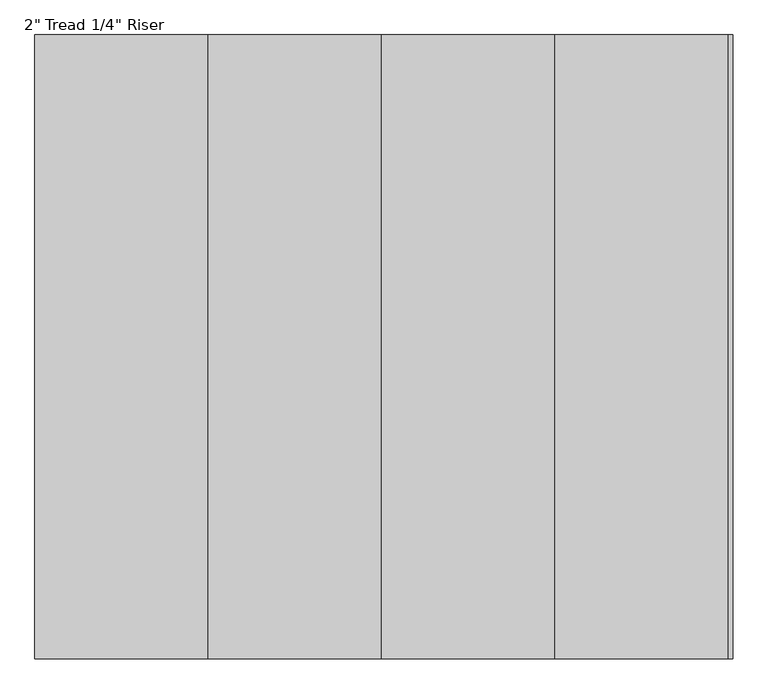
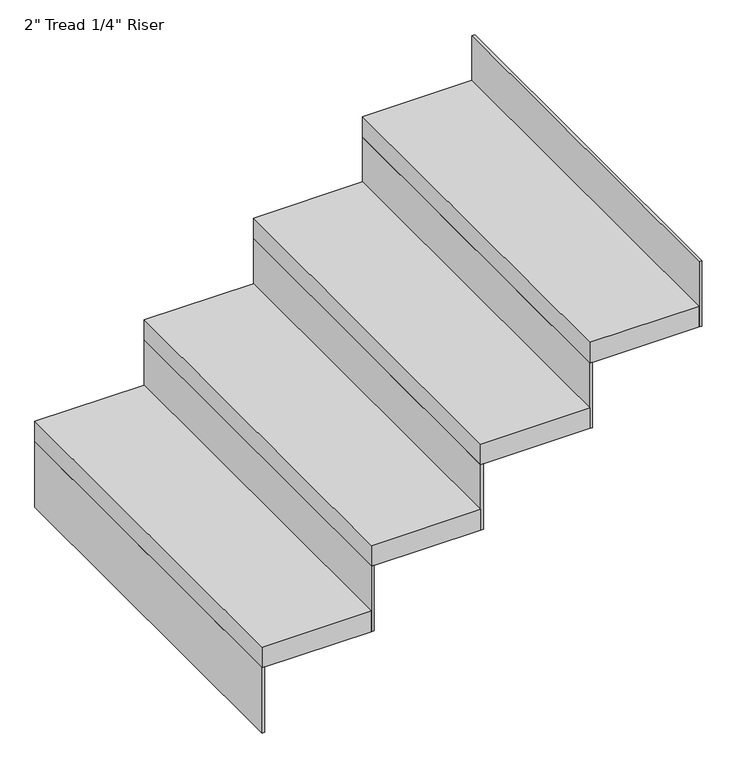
"""IFC4 building model written with IfcOpenShell, lengths in millimetres: stair flight geometry."""

from ifc_helpers import new_model, si_unit, frame, origin, place, context, project, spatial, polyline, outline, extrude, source, transform, mapped, element, save


def stair_flight_938dff1c(model_context):
    return source(origin(), model_context, "Body", "SweptSolid", [
        extrude(outline(polyline([(139886.5788146, -35593.481782), (139880.2288146, -35593.481782), (139880.2288146, -34679.081782), (139886.5788146, -34679.081782), (139886.5788146, -35593.481782)])), frame((0.0, 0.0, 2195.0947368), z_axis=(0.0, 0.0, 1.0), x_axis=(1.0, 0.0, 0.0)), (0.0, 0.0, 1.0), 160.4210526),
        extrude(outline(polyline([(140134.2288146, -34679.081782), (140134.2288146, -35593.481782), (139880.2288146, -35593.481782), (139880.2288146, -34679.081782), (140134.2288146, -34679.081782)])), frame((0.0, 0.0, 2355.5157895), z_axis=(0.0, 0.0, 1.0), x_axis=(1.0, 0.0, 0.0)), (0.0, 0.0, 1.0), 50.8),
        extrude(outline(polyline([(140140.5788146, -35593.481782), (140134.2288146, -35593.481782), (140134.2288146, -34679.081782), (140140.5788146, -34679.081782), (140140.5788146, -35593.481782)])), frame((0.0, 0.0, 2355.5157895), z_axis=(0.0, 0.0, 1.0), x_axis=(1.0, 0.0, 0.0)), (0.0, 0.0, 1.0), 160.4210526),
        extrude(outline(polyline([(140388.2288146, -34679.081782), (140388.2288146, -35593.481782), (140134.2288146, -35593.481782), (140134.2288146, -34679.081782), (140388.2288146, -34679.081782)])), frame((0.0, 0.0, 2515.9368421), z_axis=(0.0, 0.0, 1.0), x_axis=(1.0, 0.0, 0.0)), (0.0, 0.0, 1.0), 50.8),
        extrude(outline(polyline([(140394.5788146, -35593.481782), (140388.2288146, -35593.481782), (140388.2288146, -34679.081782), (140394.5788146, -34679.081782), (140394.5788146, -35593.481782)])), frame((0.0, 0.0, 2515.9368421), z_axis=(0.0, 0.0, 1.0), x_axis=(1.0, 0.0, 0.0)), (0.0, 0.0, 1.0), 160.4210526),
        extrude(outline(polyline([(140642.2288146, -34679.081782), (140642.2288146, -35593.481782), (140388.2288146, -35593.481782), (140388.2288146, -34679.081782), (140642.2288146, -34679.081782)])), frame((0.0, 0.0, 2676.3578947), z_axis=(0.0, 0.0, 1.0), x_axis=(1.0, 0.0, 0.0)), (0.0, 0.0, 1.0), 50.8),
        extrude(outline(polyline([(140648.5788146, -35593.481782), (140642.2288146, -35593.481782), (140642.2288146, -34679.081782), (140648.5788146, -34679.081782), (140648.5788146, -35593.481782)])), frame((0.0, 0.0, 2676.3578947), z_axis=(0.0, 0.0, 1.0), x_axis=(1.0, 0.0, 0.0)), (0.0, 0.0, 1.0), 160.4210526),
        extrude(outline(polyline([(140902.5788146, -35593.481782), (140896.2288146, -35593.481782), (140896.2288146, -34679.081782), (140902.5788146, -34679.081782), (140902.5788146, -35593.481782)])), frame((0.0, 0.0, 2836.7789474), z_axis=(0.0, 0.0, 1.0), x_axis=(1.0, 0.0, 0.0)), (0.0, 0.0, 1.0), 160.4210526),
        extrude(outline(polyline([(140896.2288146, -34679.081782), (140896.2288146, -35593.481782), (140642.2288146, -35593.481782), (140642.2288146, -34679.081782), (140896.2288146, -34679.081782)])), frame((0.0, 0.0, 2836.7789474), z_axis=(0.0, 0.0, 1.0), x_axis=(1.0, 0.0, 0.0)), (0.0, 0.0, 1.0), 50.8),
    ])


if __name__ == "__main__":
    model = new_model("IFC4")
    model_context = context("Model", 3, world=origin())
    ifc_project = project(units=[si_unit("LENGTHUNIT", "METRE", prefix="MILLI")], contexts=[model_context])
    site = spatial("IfcSite", under=ifc_project)
    building = spatial("IfcBuilding", under=site)
    placement = place(None, origin())
    stair_flight_shape = stair_flight_938dff1c(model_context)
    element("IfcStairFlight", 1, ObjectType="2\" Tread 1/4\" Riser", at=placement, inside=building, context=model_context, shape_type="MappedRepresentation", body=[
        mapped(stair_flight_shape, transform((0.0, 0.0, 0.0), x_axis=(1.0, 0.0, 0.0), y_axis=(0.0, 1.0, 0.0), z_axis=(0.0, 0.0, 1.0))),
    ])
    save(model, "model.ifc")
